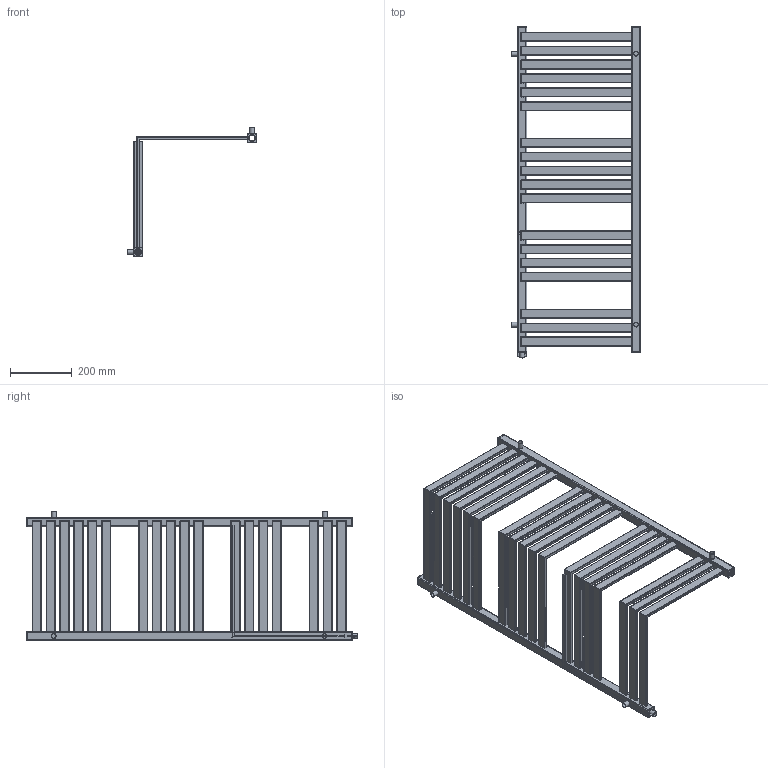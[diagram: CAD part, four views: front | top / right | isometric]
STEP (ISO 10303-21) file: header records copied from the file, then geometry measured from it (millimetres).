
FILE_DESCRIPTION( ( 'Unknown' ), '1' );
FILE_NAME( 'D:/Alplast sp. j/Witryna zespoBu - Projekty/Archiwum/Grzejniki Archiwum/Projekty/DESIGN PROGRAM/CORNER ALFA I BETA/CORNER BETA 4.stp', 'Unknown', ( 'Unknown' ), ( 'Unknown' ), 'PSStep 10.1', 'Unknown', ' ' );
FILE_SCHEMA( ( 'AUTOMOTIVE_DESIGN { 1 0 10303 214 1 1 1 1 }' ) );
Length unit declared in the file: millimetre
Products named in the file (6): kana³ po giêciu; Assem1; kana³y 30x10 czêœæ do giêcia; zaslepka kwadrat otwor; AK4-N; mocowanie
Bounding box: 420 x 1078 x 420 mm (x, y, z)
Volume: 1837922.7 mm3; surface area: 2736028.5 mm2
Topology: 52 solids, 52 shells, 1484 faces, 4149 edges, 2740 vertices
Faces by surface type: plane 823, cylinder 651, torus 10
Full cylindrical faces by diameter (mm): 14 x5, 16 x5, 18.631 x5, 23 x5
Entity records: 8990 total; most frequent: DIRECTION 1291, CARTESIAN_POINT 1264, ORIENTED_EDGE 1198, EDGE_CURVE 599, AXIS2_PLACEMENT_3D 451, VERTEX_POINT 402, LINE 389, VECTOR 389
